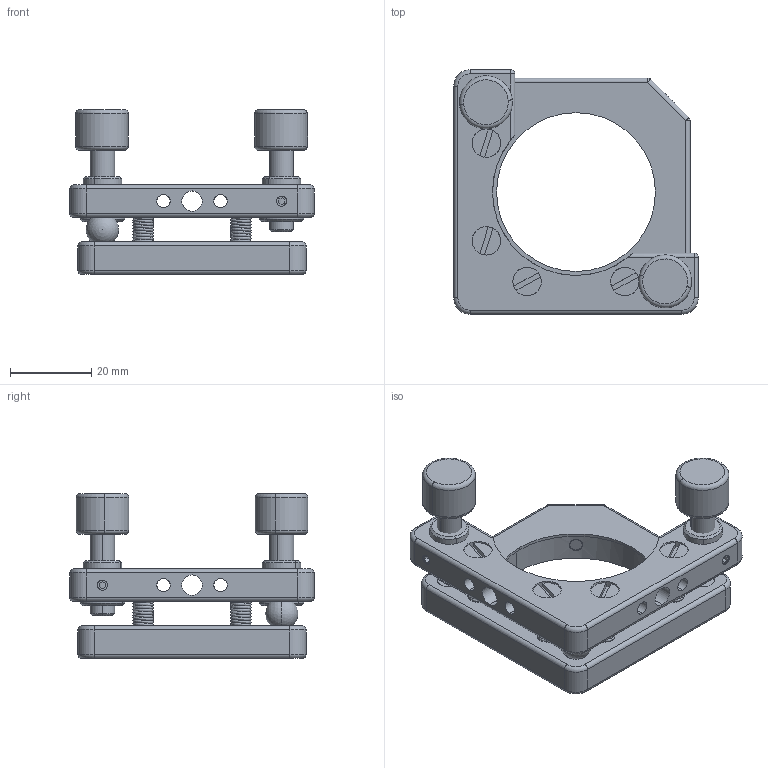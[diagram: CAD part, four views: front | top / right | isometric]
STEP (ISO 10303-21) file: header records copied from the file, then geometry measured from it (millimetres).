
FILE_DESCRIPTION (( 'STEP AP203' ), '1' );
FILE_NAME ('7MM0740謗峎覃淕噩殤.STEP', '2019-10-17T09:04:58', ( '' ), ( '' ), 'SwSTEP 2.0', 'SolidWorks 2014', '' );
FILE_SCHEMA (( 'CONFIG_CONTROL_DESIGN' ));
Length unit declared in the file: millimetre
Products named in the file (1): 7MM0740謗峎覃淕噩殤
Bounding box: 60 x 60 x 40.5 mm (x, y, z)
Surface area: 16901.6 mm2 (no closed solid volume)
Topology: 0 solids, 33 shells, 252 faces, 675 edges, 443 vertices
Faces by surface type: cylinder 109, plane 89, torus 20, cone 16, sphere 10, bspline 8
Entity records: 18711 total; most frequent: CARTESIAN_POINT 12355, DIRECTION 1439, ORIENTED_EDGE 1095, EDGE_CURVE 660, AXIS2_PLACEMENT_3D 584, VERTEX_POINT 440, CIRCLE 339, EDGE_LOOP 305
